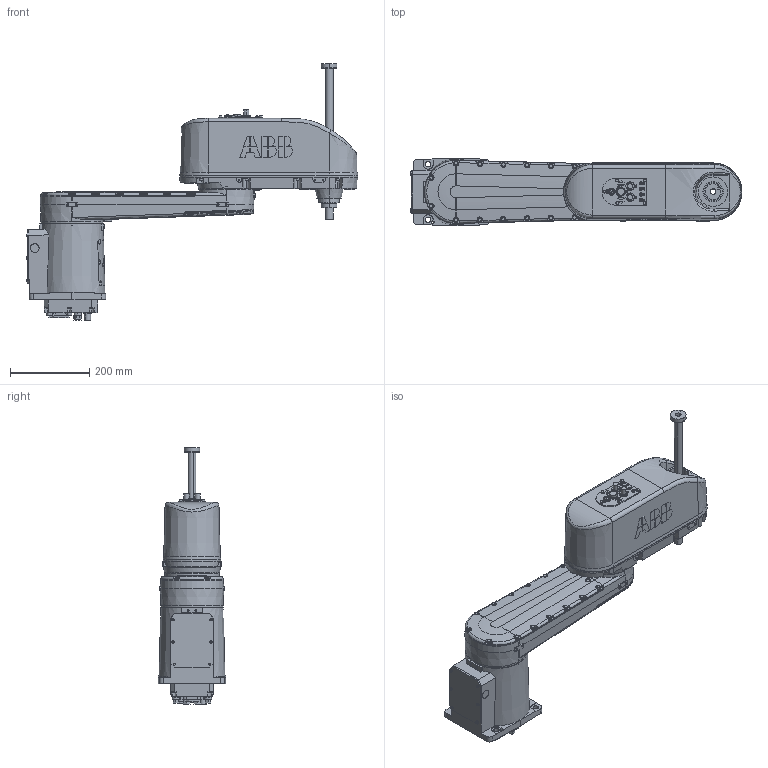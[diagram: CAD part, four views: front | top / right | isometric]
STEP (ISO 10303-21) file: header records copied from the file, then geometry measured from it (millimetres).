
FILE_DESCRIPTION (( 'STEP AP214' ), '1' );
FILE_NAME ('IRB920T_6kg-650-180-BTM_OmniCore_rev00_Assembly.step', '2021-08-23T03:28:46', ( '' ), ( '' ), 'SwSTEP 2.0', 'SolidWorks 2018', '' );
FILE_SCHEMA (( 'AUTOMOTIVE_DESIGN' ));
Length unit declared in the file: millimetre
Products named in the file (5): IRB920T_6kg-650-180-BTM_OmniCore_rev00_LINK1_CAD; IRB920T_6kg-650-180-BTM_OmniCore_rev00_LINK2_CAD; IRB920T_6kg-650-180-BTM_OmniCore_rev00_Assembly; IRB920T_6kg-650-180-BTM_OmniCore_rev00_LINK0_CAD; IRB920T_6kg-650-180-BTM_OmniCore_rev00_LINK3_CAD
Assembly tree (4 placements, depth 2):
  IRB920T_6kg-650-180-BTM_OmniCore_rev00_Assembly
    IRB920T_6kg-650-180-BTM_OmniCore_rev00_LINK0_CAD
    IRB920T_6kg-650-180-BTM_OmniCore_rev00_LINK1_CAD
    IRB920T_6kg-650-180-BTM_OmniCore_rev00_LINK2_CAD
    IRB920T_6kg-650-180-BTM_OmniCore_rev00_LINK3_CAD
Bounding box: 839 x 170 x 649.33 mm (x, y, z)
Volume: 20165876.5 mm3; surface area: 830814.4 mm2
Topology: 4 solids, 5 shells, 2263 faces, 5789 edges, 3760 vertices
Faces by surface type: plane 1223, cylinder 410, bspline 383, cone 233, torus 12, sphere 2
Entity records: 91379 total; most frequent: CARTESIAN_POINT 37181, ORIENTED_EDGE 11436, DIRECTION 9070, EDGE_CURVE 5718, VERTEX_POINT 3760, LINE 3406, VECTOR 3406, AXIS2_PLACEMENT_3D 2832
